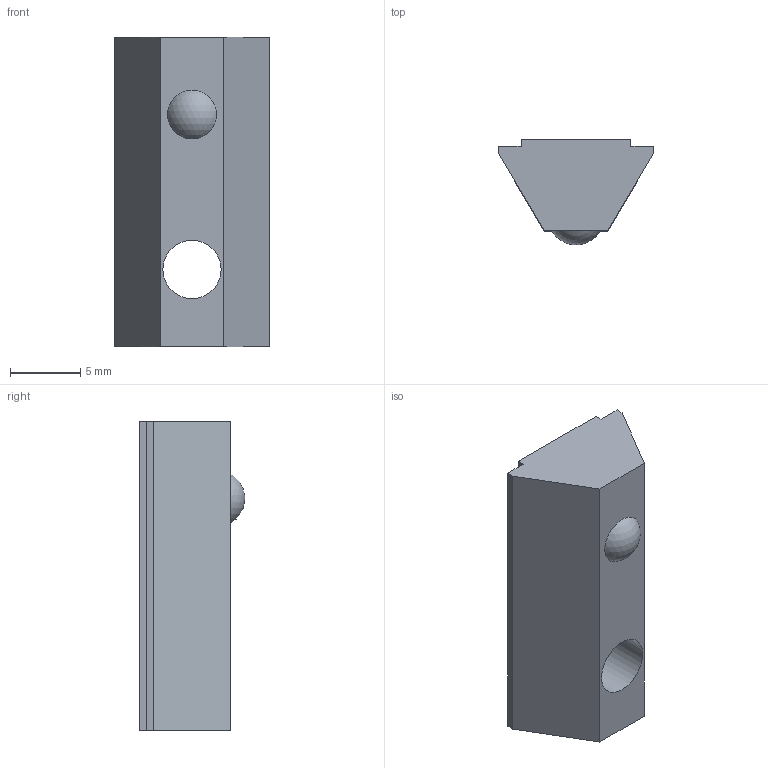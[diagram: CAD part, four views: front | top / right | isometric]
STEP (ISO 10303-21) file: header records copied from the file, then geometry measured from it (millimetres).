
FILE_DESCRIPTION((''),'2;1');
FILE_NAME('E:\catalogue and flyer\Profile catalogue 2015\Accessories JE info\Accessories-JE step file 31MAr16\JE-HRN5-8_3030.stp','2016-03-31T16:04:35',('h029'),(''),'Autodesk Inventor 11','Autodesk Inventor 11','');
FILE_SCHEMA(('AUTOMOTIVE_DESIGN { 1 0 10303 214 1 1 1 1 }'));
Length unit declared in the file: millimetre
Products named in the file (1): JE-HRN5-8_3030
Bounding box: 11 x 7.49 x 22 mm (x, y, z)
Volume: 1062.6 mm3; surface area: 830.8 mm2
Topology: 1 solids, 1 shells, 14 faces, 35 edges, 24 vertices
Faces by surface type: plane 12, sphere 1, bspline 1
Entity records: 444 total; most frequent: CARTESIAN_POINT 88, ORIENTED_EDGE 66, DIRECTION 64, EDGE_CURVE 33, VECTOR 30, LINE 30, VERTEX_POINT 23, EDGE_LOOP 18
